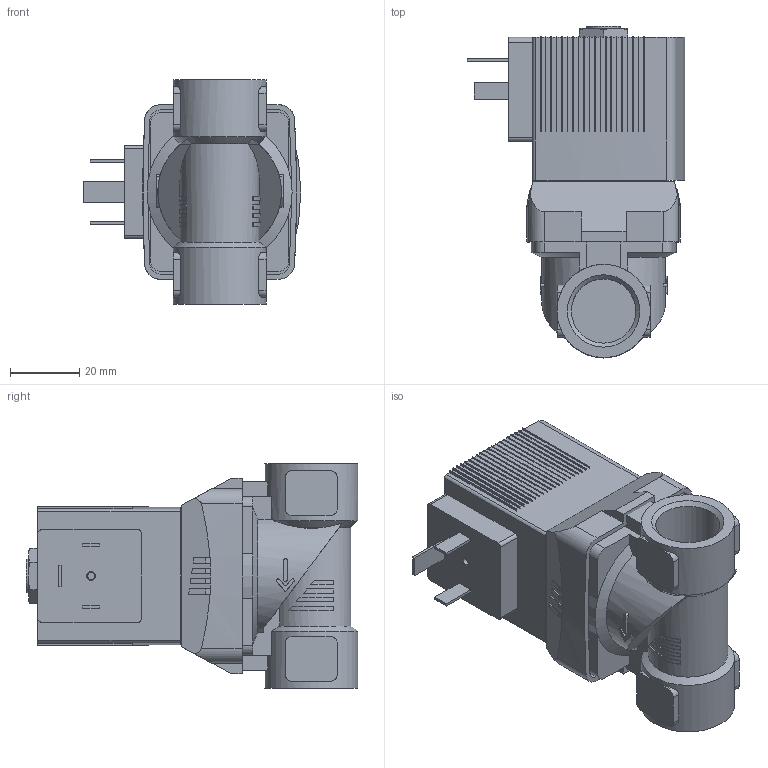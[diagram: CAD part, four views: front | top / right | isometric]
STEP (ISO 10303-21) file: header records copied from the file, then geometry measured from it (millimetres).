
FILE_DESCRIPTION( ( 'STEP AP214' ), '1' );
FILE_NAME( 'p:/temp/worker_15/temp/app_54_02018103121070282816646192d056f_000000_00_00_000000/format_0/6213-221654-2_2-Way-Solenoid-Valve_for_fluids.stp', '2018-10-31T20:07:04', ( '' ), ( '' ), ' ', 'PARTsolutions', ' ' );
FILE_SCHEMA( ( 'AUTOMOTIVE_DESIGN { 1 0 10303 214 1 1 1 1 }' ) );
Length unit declared in the file: millimetre
Products named in the file (4): 6213-221654-2/2-Way-Solenoid-Valve for fluids; HI_AC10ex-6OO-Plan-Coil; _6213-13U3-2/2-Wege-Magnetventil-feur-Fluessigkeiten-und-Gase; HI_6213-13G1/2MS-Gehaeuse-lang
Assembly tree (3 placements, depth 2):
  6213-221654-2/2-Way-Solenoid-Valve for fluids
    HI_AC10ex-6OO-Plan-Coil
    _6213-13U3-2/2-Wege-Magnetventil-feur-Fluessigkeiten-und-Gase
    HI_6213-13G1/2MS-Gehaeuse-lang
Bounding box: 63 x 96.08 x 65 mm (x, y, z)
Volume: 151774.8 mm3; surface area: 32622.9 mm2
Topology: 3 solids, 3 shells, 546 faces, 1523 edges, 1008 vertices
Faces by surface type: plane 454, cylinder 79, cone 13
Full cylindrical faces by diameter (mm): 2.013 x1, 9.74 x1, 18.631 x2, 21 x1, 27 x2
Entity records: 22096 total; most frequent: CARTESIAN_POINT 3506, ORIENTED_EDGE 3018, DIRECTION 2856, EDGE_CURVE 1509, LINE 1142, VECTOR 1142, VERTEX_POINT 1005, AXIS2_PLACEMENT_3D 857
